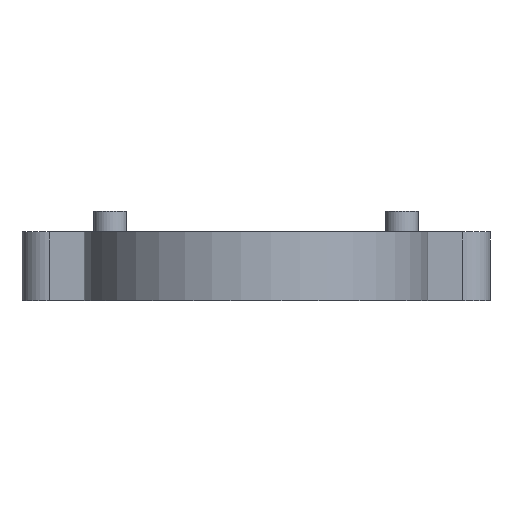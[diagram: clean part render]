
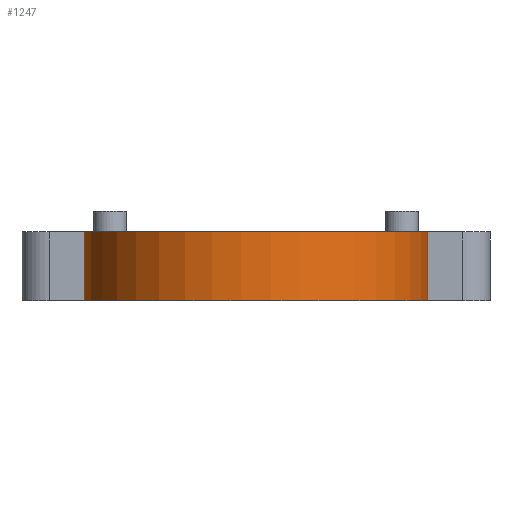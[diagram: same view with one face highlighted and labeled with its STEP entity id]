
A CAD part, left-side view. The second image highlights one B-rep face of the part: STEP entity #1247.
In plain terms, the highlighted cylindrical face has radius 12.5 mm (diameter 25 mm), a partial arc.
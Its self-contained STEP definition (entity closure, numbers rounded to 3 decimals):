
#21 = EDGE_CURVE('',#22,#24,#26,.T.);
#22 = VERTEX_POINT('',#23);
#23 = CARTESIAN_POINT('',(-13.157,4.,0.));
#24 = VERTEX_POINT('',#25);
#25 = CARTESIAN_POINT('',(-13.157,-4.,0.));
#26 = SURFACE_CURVE('',#27,(#32,#44),.PCURVE_S1.);
#27 = CIRCLE('',#28,12.5);
#28 = AXIS2_PLACEMENT_3D('',#29,#30,#31);
#29 = CARTESIAN_POINT('',(-25.,0.,0.));
#30 = DIRECTION('',(0.,0.,1.));
#31 = DIRECTION('',(1.,0.,-0.));
#32 = PCURVE('',#33,#38);
#33 = PLANE('',#34);
#34 = AXIS2_PLACEMENT_3D('',#35,#36,#37);
#35 = CARTESIAN_POINT('',(-25.,0.,0.));
#36 = DIRECTION('',(0.,0.,1.));
#37 = DIRECTION('',(1.,0.,-0.));
#38 = DEFINITIONAL_REPRESENTATION('',(#39),#43);
#39 = CIRCLE('',#40,12.5);
#40 = AXIS2_PLACEMENT_2D('',#41,#42);
#41 = CARTESIAN_POINT('',(0.,0.));
#42 = DIRECTION('',(1.,0.));
#43 = ( GEOMETRIC_REPRESENTATION_CONTEXT(2) 
PARAMETRIC_REPRESENTATION_CONTEXT() REPRESENTATION_CONTEXT('2D SPACE',''
  ) );
#44 = PCURVE('',#45,#50);
#45 = CYLINDRICAL_SURFACE('',#46,12.5);
#46 = AXIS2_PLACEMENT_3D('',#47,#48,#49);
#47 = CARTESIAN_POINT('',(-25.,0.,0.));
#48 = DIRECTION('',(0.,0.,1.));
#49 = DIRECTION('',(1.,0.,-0.));
#50 = DEFINITIONAL_REPRESENTATION('',(#51),#55);
#51 = LINE('',#52,#53);
#52 = CARTESIAN_POINT('',(0.,0.));
#53 = VECTOR('',#54,1.);
#54 = DIRECTION('',(1.,0.));
#55 = ( GEOMETRIC_REPRESENTATION_CONTEXT(2) 
PARAMETRIC_REPRESENTATION_CONTEXT() REPRESENTATION_CONTEXT('2D SPACE',''
  ) );
#73 = PLANE('',#74);
#74 = AXIS2_PLACEMENT_3D('',#75,#76,#77);
#75 = CARTESIAN_POINT('',(-27.,-4.,0.));
#76 = DIRECTION('',(0.,1.,0.));
#77 = DIRECTION('',(0.,0.,1.));
#363 = PLANE('',#364);
#364 = AXIS2_PLACEMENT_3D('',#365,#366,#367);
#365 = CARTESIAN_POINT('',(-27.,4.,0.));
#366 = DIRECTION('',(0.,1.,0.));
#367 = DIRECTION('',(0.,0.,1.));
#1247 = ADVANCED_FACE('',(#1248),#45,.T.);
#1248 = FACE_BOUND('',#1249,.T.);
#1249 = EDGE_LOOP('',(#1250,#1281,#1302,#1303));
#1250 = ORIENTED_EDGE('',*,*,#1251,.F.);
#1251 = EDGE_CURVE('',#1252,#1254,#1256,.T.);
#1252 = VERTEX_POINT('',#1253);
#1253 = CARTESIAN_POINT('',(-13.157,4.,5.));
#1254 = VERTEX_POINT('',#1255);
#1255 = CARTESIAN_POINT('',(-13.157,-4.,5.));
#1256 = SURFACE_CURVE('',#1257,(#1262,#1269),.PCURVE_S1.);
#1257 = CIRCLE('',#1258,12.5);
#1258 = AXIS2_PLACEMENT_3D('',#1259,#1260,#1261);
#1259 = CARTESIAN_POINT('',(-25.,0.,5.));
#1260 = DIRECTION('',(0.,0.,1.));
#1261 = DIRECTION('',(1.,0.,-0.));
#1262 = PCURVE('',#45,#1263);
#1263 = DEFINITIONAL_REPRESENTATION('',(#1264),#1268);
#1264 = LINE('',#1265,#1266);
#1265 = CARTESIAN_POINT('',(0.,5.));
#1266 = VECTOR('',#1267,1.);
#1267 = DIRECTION('',(1.,0.));
#1268 = ( GEOMETRIC_REPRESENTATION_CONTEXT(2) 
PARAMETRIC_REPRESENTATION_CONTEXT() REPRESENTATION_CONTEXT('2D SPACE',''
  ) );
#1269 = PCURVE('',#1270,#1275);
#1270 = PLANE('',#1271);
#1271 = AXIS2_PLACEMENT_3D('',#1272,#1273,#1274);
#1272 = CARTESIAN_POINT('',(-25.,0.,5.));
#1273 = DIRECTION('',(0.,0.,1.));
#1274 = DIRECTION('',(1.,0.,-0.));
#1275 = DEFINITIONAL_REPRESENTATION('',(#1276),#1280);
#1276 = CIRCLE('',#1277,12.5);
#1277 = AXIS2_PLACEMENT_2D('',#1278,#1279);
#1278 = CARTESIAN_POINT('',(0.,0.));
#1279 = DIRECTION('',(1.,0.));
#1280 = ( GEOMETRIC_REPRESENTATION_CONTEXT(2) 
PARAMETRIC_REPRESENTATION_CONTEXT() REPRESENTATION_CONTEXT('2D SPACE',''
  ) );
#1281 = ORIENTED_EDGE('',*,*,#1282,.F.);
#1282 = EDGE_CURVE('',#22,#1252,#1283,.T.);
#1283 = SURFACE_CURVE('',#1284,(#1288,#1295),.PCURVE_S1.);
#1284 = LINE('',#1285,#1286);
#1285 = CARTESIAN_POINT('',(-13.157,4.,0.));
#1286 = VECTOR('',#1287,1.);
#1287 = DIRECTION('',(0.,0.,1.));
#1288 = PCURVE('',#45,#1289);
#1289 = DEFINITIONAL_REPRESENTATION('',(#1290),#1294);
#1290 = LINE('',#1291,#1292);
#1291 = CARTESIAN_POINT('',(0.326,0.));
#1292 = VECTOR('',#1293,1.);
#1293 = DIRECTION('',(0.,1.));
#1294 = ( GEOMETRIC_REPRESENTATION_CONTEXT(2) 
PARAMETRIC_REPRESENTATION_CONTEXT() REPRESENTATION_CONTEXT('2D SPACE',''
  ) );
#1295 = PCURVE('',#363,#1296);
#1296 = DEFINITIONAL_REPRESENTATION('',(#1297),#1301);
#1297 = LINE('',#1298,#1299);
#1298 = CARTESIAN_POINT('',(0.,13.843));
#1299 = VECTOR('',#1300,1.);
#1300 = DIRECTION('',(1.,0.));
#1301 = ( GEOMETRIC_REPRESENTATION_CONTEXT(2) 
PARAMETRIC_REPRESENTATION_CONTEXT() REPRESENTATION_CONTEXT('2D SPACE',''
  ) );
#1302 = ORIENTED_EDGE('',*,*,#21,.T.);
#1303 = ORIENTED_EDGE('',*,*,#1304,.T.);
#1304 = EDGE_CURVE('',#24,#1254,#1305,.T.);
#1305 = SURFACE_CURVE('',#1306,(#1310,#1317),.PCURVE_S1.);
#1306 = LINE('',#1307,#1308);
#1307 = CARTESIAN_POINT('',(-13.157,-4.,0.));
#1308 = VECTOR('',#1309,1.);
#1309 = DIRECTION('',(0.,0.,1.));
#1310 = PCURVE('',#45,#1311);
#1311 = DEFINITIONAL_REPRESENTATION('',(#1312),#1316);
#1312 = LINE('',#1313,#1314);
#1313 = CARTESIAN_POINT('',(5.957,0.));
#1314 = VECTOR('',#1315,1.);
#1315 = DIRECTION('',(0.,1.));
#1316 = ( GEOMETRIC_REPRESENTATION_CONTEXT(2) 
PARAMETRIC_REPRESENTATION_CONTEXT() REPRESENTATION_CONTEXT('2D SPACE',''
  ) );
#1317 = PCURVE('',#73,#1318);
#1318 = DEFINITIONAL_REPRESENTATION('',(#1319),#1323);
#1319 = LINE('',#1320,#1321);
#1320 = CARTESIAN_POINT('',(0.,13.843));
#1321 = VECTOR('',#1322,1.);
#1322 = DIRECTION('',(1.,0.));
#1323 = ( GEOMETRIC_REPRESENTATION_CONTEXT(2) 
PARAMETRIC_REPRESENTATION_CONTEXT() REPRESENTATION_CONTEXT('2D SPACE',''
  ) );
